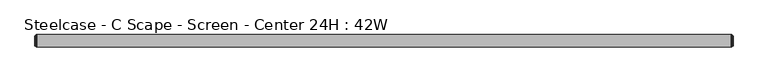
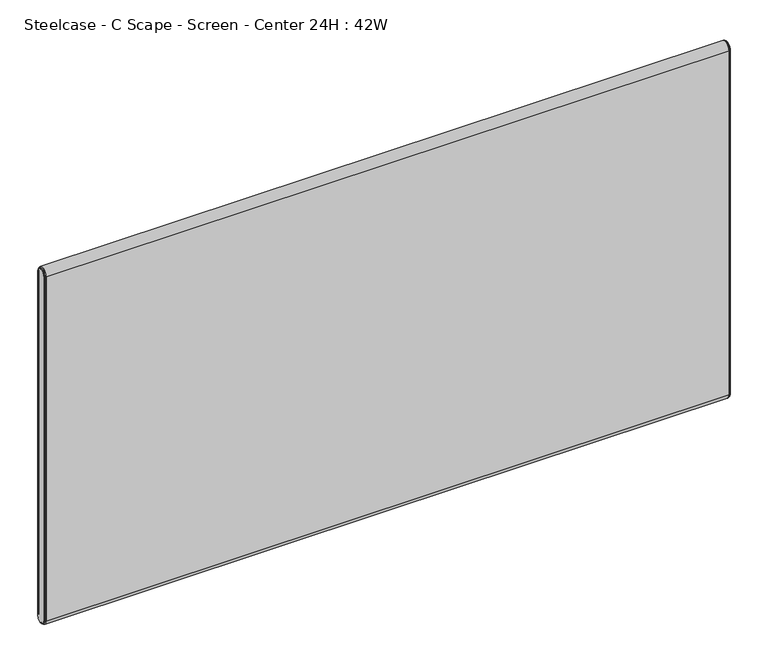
"""IFC4 building model written with IfcOpenShell, lengths in millimetres: furniture geometry, Steelcase - C Scape - Screen - Center 24H : 42W."""

from ifc_helpers import new_model, si_unit, point, frame, frame_2d, origin, place, context, project, spatial, polyline, circle_curve, ellipse_curve, trimmed, segment, composite_curve, outline, extrude, source, transform, mapped, element, save
from ifc_brep_helpers import plane_surface, cylinder_surface, revolved_surface, advanced_brep


def steelcase_c_scape_screen_center_24h_42w_92e6b2fe(model_context):
    return source(origin(), model_context, "Body", "SolidModel", [
        advanced_brep(
        [(1063.2486613, -9.525, 1298.067), (1063.2486613, 9.525, 1298.067), (1063.2486613, 9.525, 732.9169758), (1063.2486613, -9.525, 732.9169758), (1066.0426613, 7.4929583, 1298.067), (1066.0426613, -7.4929583, 1298.067), (1066.0426613, -7.4929583, 732.9169758), (1066.0426613, 7.4929583, 732.9169758), (1065.5346545, -8.0009651, 1298.067), (1065.5346545, 8.0009651, 1298.067), (1064.2646613, 8.0009651, 1298.067), (1064.2646613, -8.0009651, 1298.067), (1064.2646613, -8.8204932, 1298.067), (1064.2646613, 8.8204932, 1298.067), (1064.2646613, -8.0009651, 732.9169758), (1065.5346545, -8.0009651, 732.9169758), (1064.2646613, -8.8204932, 732.9169758), (1064.2646613, 8.0009651, 732.9169758), (1065.5346545, 8.0009651, 732.9169758), (1064.2646613, 8.8204932, 732.9169758)],
        [
            (0, 1, circle_curve(frame((1063.2486613, 0.0, 1298.067), z_axis=(-1.0, 0.0, 0.0), x_axis=(0.0, 1.0, 0.0)), 9.525)),
            (1, 2),
            (2, 3, circle_curve(frame((1063.2486613, 0.0, 732.9169758), z_axis=(-1.0, 0.0, 0.0), x_axis=(0.0, -1.0, 0.0)), 9.525)),
            (3, 0),
            (4, 5, circle_curve(frame((1066.0426613, 0.0, 1298.067), z_axis=(1.0, 0.0, 0.0), x_axis=(0.0, 1.0, 0.0)), 7.4929583)),
            (5, 6),
            (6, 7, circle_curve(frame((1066.0426613, 0.0, 732.9169758), z_axis=(1.0, 0.0, 0.0), x_axis=(0.0, -1.0, 0.0)), 7.4929583)),
            (7, 4),
            (8, 9, circle_curve(frame((1065.5346545, 0.0, 1298.067), z_axis=(-1.0, 0.0, 0.0), x_axis=(0.0, 1.0, 0.0)), 8.0009651)),
            (9, 10),
            (10, 11, circle_curve(frame((1064.2646613, 0.0, 1298.067), z_axis=(1.0, 0.0, 0.0), x_axis=(0.0, 1.0, 0.0)), 8.0009651)),
            (11, 8),
            (8, 5, circle_curve(frame((1065.5346545, -7.4929583, 1298.067), z_axis=(0.0, 0.0, 1.0), x_axis=(0.0, -1.0, 0.0)), 0.5080068)),
            (4, 9, circle_curve(frame((1065.5346545, 7.4929583, 1298.067), z_axis=(0.0, 0.0, 1.0), x_axis=(0.0, 1.0, 0.0)), 0.5080068)),
            (12, 13, circle_curve(frame((1064.2646613, 0.0, 1298.067), z_axis=(-1.0, 0.0, 0.0), x_axis=(0.0, 1.0, 0.0)), 8.8204932)),
            (13, 1, circle_curve(frame((1063.1806211, 8.3420139, 1298.067), z_axis=(0.0, 0.0, 1.0), x_axis=(0.0, 1.0, 0.0)), 1.1849411)),
            (0, 12, circle_curve(frame((1063.1806211, -8.3420139, 1298.067), z_axis=(0.0, 0.0, 1.0), x_axis=(0.0, -1.0, 0.0)), 1.1849411)),
            (11, 14),
            (14, 15),
            (15, 8),
            (15, 6, circle_curve(frame((1065.5346545, -7.4929583, 732.9169758), z_axis=(0.0, 0.0, 1.0), x_axis=(0.0, -1.0, 0.0)), 0.5080068)),
            (3, 16, circle_curve(frame((1063.1806211, -8.3420139, 732.9169758), z_axis=(0.0, 0.0, 1.0), x_axis=(0.0, -1.0, 0.0)), 1.1849411)),
            (16, 12),
            (14, 17, circle_curve(frame((1064.2646613, 0.0, 732.9169758), z_axis=(1.0, 0.0, 0.0), x_axis=(0.0, -1.0, 0.0)), 8.0009651)),
            (17, 18),
            (18, 15, circle_curve(frame((1065.5346545, 0.0, 732.9169758), z_axis=(-1.0, 0.0, 0.0), x_axis=(0.0, -1.0, 0.0)), 8.0009651)),
            (18, 7, circle_curve(frame((1065.5346545, 7.4929583, 732.9169758), z_axis=(0.0, 0.0, -1.0), x_axis=(0.0, 1.0, 0.0)), 0.5080068)),
            (2, 19, circle_curve(frame((1063.1806211, 8.3420139, 732.9169758), z_axis=(0.0, 0.0, -1.0), x_axis=(0.0, 1.0, 0.0)), 1.1849411)),
            (19, 16, circle_curve(frame((1064.2646613, 0.0, 732.9169758), z_axis=(-1.0, 0.0, 0.0), x_axis=(0.0, -1.0, 0.0)), 8.8204932)),
            (9, 18),
            (17, 10),
            (13, 19),
        ],
        [
            plane_surface(frame((1063.2486613, -6.3509705, 1298.067), z_axis=(-1.0, 0.0, 0.0), x_axis=(0.0, 0.0, 1.0))),
            plane_surface(frame((1066.0426613, -6.3509705, 1298.067), z_axis=(1.0, 0.0, 0.0), x_axis=(0.0, 0.0, -1.0))),
            cylinder_surface(frame((1063.2486613, 0.0, 1298.067), z_axis=(1.0, 0.0, 0.0), x_axis=(0.0, 1.0, 0.0)), 8.0009651),
            revolved_surface(trimmed(ellipse_curve(frame((1065.5346545, 7.4929583, 1298.067), z_axis=(0.0, 0.0, -1.0), x_axis=(0.0, 1.0, 0.0)), 0.5080068, 0.5080068), [point((1065.5346545, 8.0009651, 1298.067))], [point((1066.0426613, 7.4929583, 1298.067))], True, "CARTESIAN"), (1063.2486613, 0.0, 1298.067), (1.0, 0.0, 0.0)),
            revolved_surface(trimmed(ellipse_curve(frame((1063.1806211, 8.3420139, 1298.067), z_axis=(0.0, 0.0, -1.0), x_axis=(0.0, 1.0, 0.0)), 1.1849411, 1.1849411), [point((1063.2486613, 9.525, 1298.067))], [point((1064.2646613, 8.8204932, 1298.067))], True, "CARTESIAN"), (1063.2486613, 0.0, 1298.067), (1.0, 0.0, 0.0)),
            plane_surface(frame((1064.2646613, -8.0009651, 1298.067), z_axis=(0.0, -1.0, 0.0), x_axis=(0.0, 0.0, -1.0))),
            cylinder_surface(frame((1065.5346545, -7.4929583, 1298.067), z_axis=(0.0, 0.0, 1.0), x_axis=(0.0, -1.0, 0.0)), 0.5080068),
            cylinder_surface(frame((1063.1806211, -8.3420139, 1298.067), z_axis=(0.0, 0.0, 1.0), x_axis=(0.0, -1.0, 0.0)), 1.1849411),
            cylinder_surface(frame((1063.2486613, 0.0, 732.9169758), z_axis=(1.0, 0.0, 0.0), x_axis=(0.0, -1.0, 0.0)), 8.0009651),
            revolved_surface(trimmed(ellipse_curve(frame((1065.5346545, -7.4929583, 732.9169758), z_axis=(0.0, 0.0, 1.0), x_axis=(0.0, -1.0, 0.0)), 0.5080068, 0.5080068), [point((1065.5346545, -8.0009651, 732.9169758))], [point((1066.0426613, -7.4929583, 732.9169758))], True, "CARTESIAN"), (1063.2486613, 0.0, 732.9169758), (1.0, 0.0, 0.0)),
            revolved_surface(trimmed(ellipse_curve(frame((1063.1806211, -8.3420139, 732.9169758), z_axis=(0.0, 0.0, 1.0), x_axis=(0.0, -1.0, 0.0)), 1.1849411, 1.1849411), [point((1063.2486613, -9.525, 732.9169758))], [point((1064.2646613, -8.8204932, 732.9169758))], True, "CARTESIAN"), (1063.2486613, 0.0, 732.9169758), (1.0, 0.0, 0.0)),
            plane_surface(frame((1064.2646613, 8.0009651, 732.9169758), z_axis=(0.0, 1.0, 0.0), x_axis=(0.0, 0.0, 1.0))),
            cylinder_surface(frame((1065.5346545, 7.4929583, 732.9169758), z_axis=(0.0, 0.0, -1.0), x_axis=(0.0, 1.0, 0.0)), 0.5080068),
            cylinder_surface(frame((1063.1806211, 8.3420139, 732.9169758), z_axis=(0.0, 0.0, -1.0), x_axis=(0.0, 1.0, 0.0)), 1.1849411),
            plane_surface(frame((1064.2646613, 8.8204932, 732.9169758), z_axis=(1.0, 0.0, 0.0), x_axis=(0.0, 0.0, 1.0))),
        ],
        [
            (0, [[1, 2, 3, 4]]),
            (1, [[5, 6, 7, 8]]),
            (2, [[9, 10, 11, 12]]),
            (3, [[-9, 13, -5, 14]]),
            (4, [[15, 16, -1, 17]]),
            (5, [[-12, 18, 19, 20]]),
            (6, [[-13, -20, 21, -6]]),
            (7, [[-17, -4, 22, 23]]),
            (8, [[-19, 24, 25, 26]]),
            (9, [[-21, -26, 27, -7]]),
            (10, [[-22, -3, 28, 29]]),
            (11, [[-10, 30, -25, 31]]),
            (12, [[-14, -8, -27, -30]]),
            (13, [[-16, 32, -28, -2]]),
            (14, [[-15, -23, -29, -32], [-11, -31, -24, -18]]),
        ],
    ),
        advanced_brep(
        [(2.7940155, 9.525, 1298.067), (2.7940155, -9.525, 1298.067), (2.7940155, -9.525, 732.917), (2.7940155, 9.525, 732.917), (0.0, -7.4929583, 1298.067), (0.0, 7.4929583, 1298.067), (0.0, 7.4929583, 732.917), (0.0, -7.4929583, 732.917), (1.778, 8.8204932, 1298.067), (1.778, -8.8204932, 1298.067), (0.5080068, -8.0009651, 1298.067), (0.5080068, 8.0009651, 1298.067), (1.778, -8.0009651, 1298.067), (1.778, 8.0009651, 1298.067), (1.778, -8.8204932, 732.917), (0.5080068, -8.0009651, 732.917), (1.778, -8.0009651, 732.917), (1.778, 8.8204932, 732.917), (0.5080068, 8.0009651, 732.917), (1.778, 8.0009651, 732.917)],
        [
            (0, 1, circle_curve(frame((2.7940155, 0.0, 1298.067), z_axis=(1.0, 0.0, 0.0), x_axis=(0.0, 1.0, 0.0)), 9.525)),
            (1, 2),
            (2, 3, circle_curve(frame((2.7940155, 0.0, 732.917), z_axis=(1.0, 0.0, 0.0), x_axis=(0.0, -1.0, 0.0)), 9.525)),
            (3, 0),
            (4, 5, circle_curve(frame((0.0, 0.0, 1298.067), z_axis=(-1.0, 0.0, 0.0), x_axis=(0.0, 1.0, 0.0)), 7.4929583)),
            (5, 6),
            (6, 7, circle_curve(frame((0.0, 0.0, 732.917), z_axis=(-1.0, 0.0, 0.0), x_axis=(0.0, -1.0, 0.0)), 7.4929583)),
            (7, 4),
            (0, 8, circle_curve(frame((2.8620402, 8.3420139, 1298.067), z_axis=(0.0, 0.0, 1.0), x_axis=(0.0, -1.0, 0.0)), 1.1849411)),
            (8, 9, circle_curve(frame((1.778, 0.0, 1298.067), z_axis=(1.0, 0.0, 0.0), x_axis=(0.0, 1.0, 0.0)), 8.8204932)),
            (9, 1, circle_curve(frame((2.8620402, -8.3420139, 1298.067), z_axis=(0.0, 0.0, 1.0), x_axis=(0.0, 1.0, 0.0)), 1.1849411)),
            (10, 11, circle_curve(frame((0.5080068, 0.0, 1298.067), z_axis=(-1.0, 0.0, 0.0), x_axis=(0.0, 1.0, 0.0)), 8.0009651)),
            (11, 5, circle_curve(frame((0.5080068, 7.4929583, 1298.067), z_axis=(0.0, 0.0, 1.0), x_axis=(0.0, -1.0, 0.0)), 0.5080068)),
            (4, 10, circle_curve(frame((0.5080068, -7.4929583, 1298.067), z_axis=(0.0, 0.0, 1.0), x_axis=(0.0, 1.0, 0.0)), 0.5080068)),
            (10, 12),
            (12, 13, circle_curve(frame((1.778, 0.0, 1298.067), z_axis=(-1.0, 0.0, 0.0), x_axis=(0.0, 1.0, 0.0)), 8.0009651)),
            (13, 11),
            (9, 14),
            (14, 2, circle_curve(frame((2.8620402, -8.3420139, 732.917), z_axis=(0.0, 0.0, 1.0), x_axis=(0.0, 1.0, 0.0)), 1.1849411)),
            (7, 15, circle_curve(frame((0.5080068, -7.4929583, 732.917), z_axis=(0.0, 0.0, 1.0), x_axis=(0.0, 1.0, 0.0)), 0.5080068)),
            (15, 10),
            (15, 16),
            (16, 12),
            (14, 17, circle_curve(frame((1.778, 0.0, 732.917), z_axis=(1.0, 0.0, 0.0), x_axis=(0.0, -1.0, 0.0)), 8.8204932)),
            (17, 3, circle_curve(frame((2.8620402, 8.3420139, 732.917), z_axis=(0.0, 0.0, -1.0), x_axis=(0.0, -1.0, 0.0)), 1.1849411)),
            (6, 18, circle_curve(frame((0.5080068, 7.4929583, 732.917), z_axis=(0.0, 0.0, -1.0), x_axis=(0.0, -1.0, 0.0)), 0.5080068)),
            (18, 15, circle_curve(frame((0.5080068, 0.0, 732.917), z_axis=(-1.0, 0.0, 0.0), x_axis=(0.0, -1.0, 0.0)), 8.0009651)),
            (18, 19),
            (19, 16, circle_curve(frame((1.778, 0.0, 732.917), z_axis=(-1.0, 0.0, 0.0), x_axis=(0.0, -1.0, 0.0)), 8.0009651)),
            (8, 17),
            (19, 13),
            (11, 18),
        ],
        [
            plane_surface(frame((2.7940155, -6.3509705, 1298.067), z_axis=(1.0, 0.0, 0.0), x_axis=(0.0, 0.0, -1.0))),
            plane_surface(frame((0.0, -6.3509705, 1298.067), z_axis=(-1.0, 0.0, 0.0), x_axis=(0.0, 0.0, 1.0))),
            revolved_surface(trimmed(ellipse_curve(frame((2.8620402, 8.3420139, 1298.067), z_axis=(0.0, 0.0, -1.0), x_axis=(0.0, -1.0, 0.0)), 1.1849411, 1.1849411), [point((1.778, 8.8204932, 1298.067))], [point((2.794, 9.525, 1298.067))], True, "CARTESIAN"), (2.794, 0.0, 1298.067), (1.0, 0.0, 0.0)),
            revolved_surface(trimmed(ellipse_curve(frame((0.5080068, 7.4929583, 1298.067), z_axis=(0.0, 0.0, -1.0), x_axis=(0.0, -1.0, 0.0)), 0.5080068, 0.5080068), [point((0.0, 7.4929583, 1298.067))], [point((0.5080068, 8.0009651, 1298.067))], True, "CARTESIAN"), (2.794, 0.0, 1298.067), (1.0, 0.0, 0.0)),
            cylinder_surface(frame((2.794, 0.0, 1298.067), z_axis=(1.0, 0.0, 0.0), x_axis=(0.0, 1.0, 0.0)), 8.0009651),
            cylinder_surface(frame((2.8620402, -8.3420139, 1298.067), z_axis=(0.0, 0.0, 1.0), x_axis=(0.0, 1.0, 0.0)), 1.1849411),
            cylinder_surface(frame((0.5080068, -7.4929583, 1298.067), z_axis=(0.0, 0.0, 1.0), x_axis=(0.0, 1.0, 0.0)), 0.5080068),
            plane_surface(frame((0.5080068, -8.0009651, 1298.067), z_axis=(0.0, -1.0, 0.0), x_axis=(0.0, 0.0, -1.0))),
            revolved_surface(trimmed(ellipse_curve(frame((2.8620402, -8.3420139, 732.917), z_axis=(0.0, 0.0, 1.0), x_axis=(0.0, 1.0, 0.0)), 1.1849411, 1.1849411), [point((1.778, -8.8204932, 732.917))], [point((2.794, -9.525, 732.917))], True, "CARTESIAN"), (2.794, 0.0, 732.917), (1.0, 0.0, 0.0)),
            revolved_surface(trimmed(ellipse_curve(frame((0.5080068, -7.4929583, 732.917), z_axis=(0.0, 0.0, 1.0), x_axis=(0.0, 1.0, 0.0)), 0.5080068, 0.5080068), [point((0.0, -7.4929583, 732.917))], [point((0.5080068, -8.0009651, 732.917))], True, "CARTESIAN"), (2.794, 0.0, 732.917), (1.0, 0.0, 0.0)),
            cylinder_surface(frame((2.794, 0.0, 732.917), z_axis=(1.0, 0.0, 0.0), x_axis=(0.0, -1.0, 0.0)), 8.0009651),
            plane_surface(frame((1.778, 8.0009651, 732.917), z_axis=(-1.0, 0.0, 0.0), x_axis=(0.0, 0.0, 1.0))),
            cylinder_surface(frame((2.8620402, 8.3420139, 732.917), z_axis=(0.0, 0.0, -1.0), x_axis=(0.0, -1.0, 0.0)), 1.1849411),
            cylinder_surface(frame((0.5080068, 7.4929583, 732.917), z_axis=(0.0, 0.0, -1.0), x_axis=(0.0, -1.0, 0.0)), 0.5080068),
            plane_surface(frame((0.5080068, 8.0009651, 732.917), z_axis=(0.0, 1.0, 0.0), x_axis=(0.0, 0.0, 1.0))),
        ],
        [
            (0, [[1, 2, 3, 4]]),
            (1, [[5, 6, 7, 8]]),
            (2, [[-1, 9, 10, 11]]),
            (3, [[12, 13, -5, 14]]),
            (4, [[-12, 15, 16, 17]]),
            (5, [[-11, 18, 19, -2]]),
            (6, [[-14, -8, 20, 21]]),
            (7, [[-15, -21, 22, 23]]),
            (8, [[-19, 24, 25, -3]]),
            (9, [[-20, -7, 26, 27]]),
            (10, [[-22, -27, 28, 29]]),
            (11, [[-10, 30, -24, -18], [-16, -23, -29, 31]]),
            (12, [[-9, -4, -25, -30]]),
            (13, [[-13, 32, -26, -6]]),
            (14, [[-17, -31, -28, -32]]),
        ],
    ),
        extrude(outline(composite_curve([segment(trimmed(circle_curve(frame_2d((0.0, 1298.067)), 9.525), [point((-9.525, 1298.067))], [point((9.525, 1298.067))], False, "CARTESIAN"), True, "CONTINUOUS"), segment(polyline([(9.525, 1298.067), (9.525, 732.917)]), True, "CONTINUOUS"), segment(trimmed(circle_curve(frame_2d((0.0, 732.917)), 9.525), [point((9.525, 732.917))], [point((-9.525, 732.917))], False, "CARTESIAN"), True, "CONTINUOUS"), segment(polyline([(-9.525, 732.917), (-9.525, 1298.067)]), True, "CONTINUOUS")], self_intersect=False)), frame((2.794, 0.0, 0.0), z_axis=(1.0, 0.0, 0.0), x_axis=(0.0, 1.0, 0.0)), (0.0, 0.0, 1.0), 1060.4546613),
    ])


if __name__ == "__main__":
    model = new_model("IFC4")
    model_context = context("Model", 3, world=origin())
    ifc_project = project(units=[si_unit("LENGTHUNIT", "METRE", prefix="MILLI")], contexts=[model_context])
    site = spatial("IfcSite", under=ifc_project)
    building = spatial("IfcBuilding", under=site)
    placement = place(None, origin())
    steelcase_c_scape_screen_center_24h_42w_shape = steelcase_c_scape_screen_center_24h_42w_92e6b2fe(model_context)
    element("IfcFurniture", 1, ObjectType="Steelcase - C Scape - Screen - Center 24H : 42W", at=placement, inside=building, context=model_context, shape_type="MappedRepresentation", body=[
        mapped(steelcase_c_scape_screen_center_24h_42w_shape, transform((0.0, 0.0, 0.0), x_axis=(1.0, 0.0, 0.0), y_axis=(0.0, 1.0, 0.0), z_axis=(0.0, 0.0, 1.0))),
    ])
    save(model, "model.ifc")
